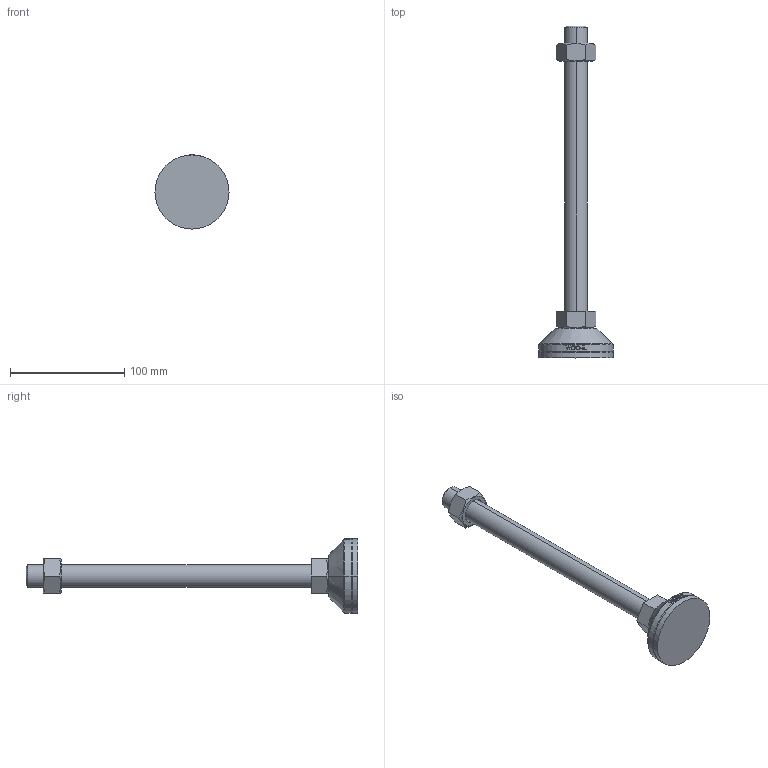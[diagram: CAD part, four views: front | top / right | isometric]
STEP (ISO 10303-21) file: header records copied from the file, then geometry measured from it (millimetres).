
FILE_DESCRIPTION (( 'STEP AP214' ), '1' );
FILE_NAME ('NHNR65-M20-250.step', '2021-01-25T06:18:35', ( '' ), ( '' ), 'SwSTEP 2.0', 'SolidWorks 2019', '' );
FILE_SCHEMA (( 'AUTOMOTIVE_DESIGN' ));
Length unit declared in the file: millimetre
Products named in the file (2): NHNR65-M20-250
Bounding box: 65 x 291 x 65 mm (x, y, z)
Volume: 165234.6 mm3; surface area: 38921.6 mm2
Topology: 4 solids, 4 shells, 105 faces, 239 edges, 152 vertices
Faces by surface type: plane 49, cylinder 18, bspline 16, cone 14, torus 8
Entity records: 4375 total; most frequent: CARTESIAN_POINT 2058, ORIENTED_EDGE 478, DIRECTION 429, EDGE_CURVE 239, AXIS2_PLACEMENT_3D 165, VERTEX_POINT 152, EDGE_LOOP 117, ADVANCED_FACE 105
